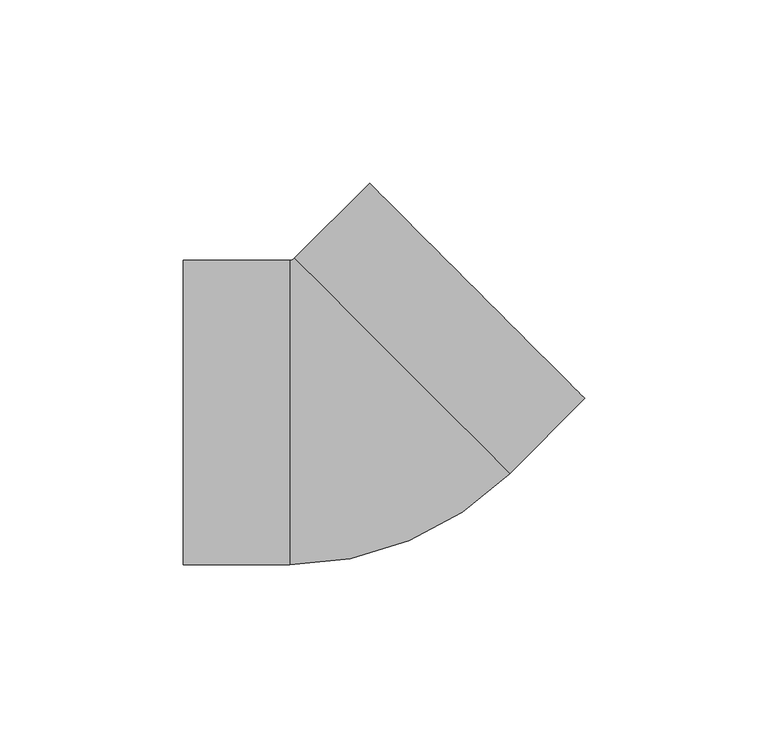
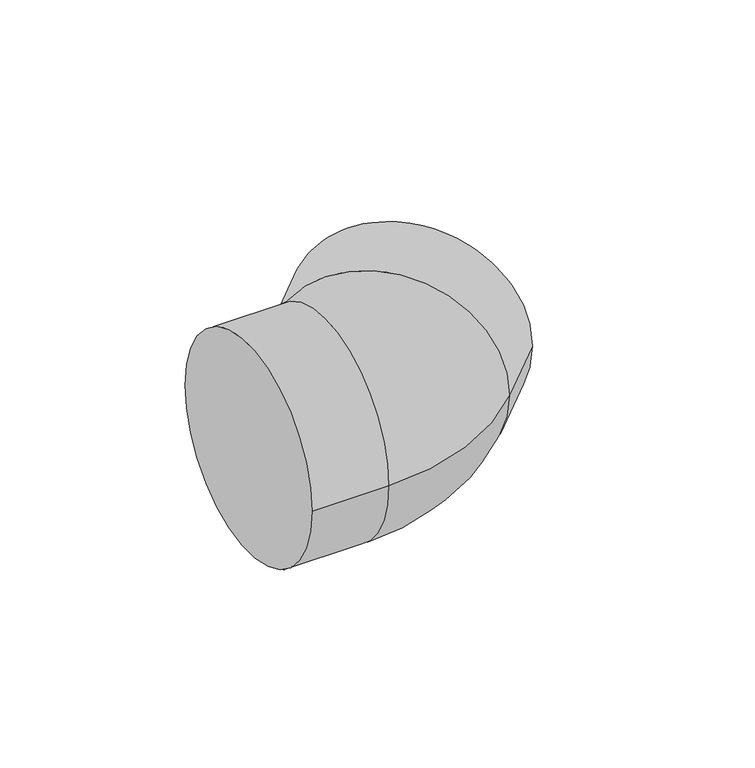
"""IFC4 building model written with IfcOpenShell, lengths in millimetres: pipe fitting geometry, NIRON RED termofusion codo : Estándar."""

from ifc_helpers import new_model, si_unit, point, frame, origin, place, context, project, spatial, circle_curve, ellipse_curve, trimmed, source, transform, mapped, element, save
from ifc_brep_helpers import plane_surface, cylinder_surface, revolved_surface, advanced_brep


def pipe_fitting_443ac8a1(model_context):
    return source(origin(), model_context, "Body", "AdvancedBrep", [
        advanced_brep(
        [(-46.9836128, -41.5, 0.0), (-46.9836128, 41.5, 0.0), (-17.9836128, -41.5, 0.0), (-17.9836128, 41.5, 0.0), (-16.6285968, 42.061266, 0.0), (42.061266, -16.6285968, 0.0), (12.7163346, 12.7163346, 41.5), (12.7163346, 12.7163346, -41.5), (62.5673627, 3.8774998, 0.0), (3.8774998, 62.5673627, 0.0)],
        [
            (0, 1, circle_curve(frame((-46.9836128, 0.0, 0.0), z_axis=(-1.0, 0.0, 0.0), x_axis=(0.0, 1.0, 0.0)), 41.5)),
            (1, 0, circle_curve(frame((-46.9836128, 0.0, 0.0), z_axis=(-1.0, 0.0, 0.0), x_axis=(0.0, 1.0, 0.0)), 41.5)),
            (0, 2),
            (2, 3, circle_curve(frame((-17.9836128, 0.0, 0.0), z_axis=(-1.0, 0.0, 0.0), x_axis=(0.0, 1.0, 0.0)), 41.5)),
            (3, 1),
            (3, 2, circle_curve(frame((-17.9836128, 0.0, 0.0), z_axis=(-1.0, 0.0, 0.0), x_axis=(0.0, 1.0, 0.0)), 41.5)),
            (4, 3, circle_curve(frame((-17.9836128, 43.416282, 0.0), z_axis=(0.0, 0.0, -1.0), x_axis=(0.0, -1.0, 0.0)), 1.916282)),
            (2, 5, circle_curve(frame((-17.9836128, 43.416282, 0.0), z_axis=(0.0, 0.0, 1.0), x_axis=(0.0, -1.0, 0.0)), 84.916282)),
            (5, 6, circle_curve(frame((12.7163346, 12.7163346, 0.0), z_axis=(-0.7071067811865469, -0.7071067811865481, 0.0), x_axis=(-0.7071067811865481, 0.7071067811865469, 0.0)), 41.5)),
            (6, 4, circle_curve(frame((12.7163346, 12.7163346, 0.0), z_axis=(-0.7071067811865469, -0.7071067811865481, 0.0), x_axis=(-0.7071067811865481, 0.7071067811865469, 0.0)), 41.5)),
            (4, 7, circle_curve(frame((12.7163346, 12.7163346, 0.0), z_axis=(-0.7071067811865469, -0.7071067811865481, 0.0), x_axis=(-0.7071067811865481, 0.7071067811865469, 0.0)), 41.5)),
            (7, 5, circle_curve(frame((12.7163346, 12.7163346, 0.0), z_axis=(-0.7071067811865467, -0.7071067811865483, 0.0), x_axis=(-0.7071067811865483, 0.7071067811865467, 0.0)), 41.5)),
            (8, 9, circle_curve(frame((33.2224312, 33.2224312, 0.0), z_axis=(0.707106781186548, 0.707106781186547, 0.0), x_axis=(-0.707106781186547, 0.707106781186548, 0.0)), 41.5)),
            (9, 8, circle_curve(frame((33.2224312, 33.2224312, 0.0), z_axis=(0.707106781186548, 0.707106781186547, 0.0), x_axis=(-0.707106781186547, 0.707106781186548, 0.0)), 41.5)),
            (9, 4),
            (5, 8),
        ],
        [
            plane_surface(frame((-46.9836128, 0.0, 0.0), z_axis=(-1.0, 0.0, 0.0), x_axis=(0.0, 0.0, 1.0))),
            cylinder_surface(frame((-46.9836128, 0.0, 0.0), z_axis=(-1.0, 0.0, 0.0), x_axis=(0.0, 1.0, 0.0)), 41.5),
            revolved_surface(trimmed(ellipse_curve(frame((-17.9836128, 0.0, 0.0), z_axis=(-1.0, 0.0, 0.0), x_axis=(0.0, 1.0, 0.0)), 41.5, 41.5), [point((-17.9836128, -41.5, 0.0))], [point((-17.9836128, 41.5, 0.0))], True, "CARTESIAN"), (-17.9836128, 43.416282, 0.0), (0.0, 0.0, 1.0)),
            revolved_surface(trimmed(ellipse_curve(frame((-17.9836128, 0.0, 0.0), z_axis=(-1.0, 0.0, 0.0), x_axis=(0.0, 1.0, 0.0)), 41.5, 41.5), [point((-17.9836128, 41.5, 0.0))], [point((-17.9836128, -41.5, 0.0))], True, "CARTESIAN"), (-17.9836128, 43.416282, 0.0), (0.0, 0.0, 1.0)),
            plane_surface(frame((33.2224312, 33.2224312, 0.0), z_axis=(0.707106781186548, 0.707106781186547, 0.0), x_axis=(0.0, 0.0, 1.0))),
            cylinder_surface(frame((12.7163346, 12.7163346, 0.0), z_axis=(-0.707106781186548, -0.707106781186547, 0.0), x_axis=(-0.707106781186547, 0.707106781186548, 0.0)), 41.5),
        ],
        [
            (0, [[1, 2]]),
            (1, [[-1, 3, 4, 5]]),
            (1, [[-2, -5, 6, -3]]),
            (2, [[7, -4, 8, 9, 10]]),
            (3, [[-7, 11, 12, -8, -6]]),
            (4, [[13, 14]]),
            (5, [[-14, 15, -10, -9, 16]]),
            (5, [[-13, -16, -12, -11, -15]]),
        ],
    ),
    ])


if __name__ == "__main__":
    model = new_model("IFC4")
    model_context = context("Model", 3, world=origin())
    ifc_project = project(units=[si_unit("LENGTHUNIT", "METRE", prefix="MILLI")], contexts=[model_context])
    site = spatial("IfcSite", under=ifc_project)
    building = spatial("IfcBuilding", under=site)
    placement = place(None, origin())
    pipe_fitting_shape = pipe_fitting_443ac8a1(model_context)
    element("IfcPipeFitting", 1, ObjectType="NIRON RED termofusion codo : Estándar", at=placement, inside=building, context=model_context, shape_type="MappedRepresentation", body=[
        mapped(pipe_fitting_shape, transform((0.0, 0.0, 0.0), x_axis=(1.0, 0.0, 0.0), y_axis=(0.0, 1.0, 0.0), z_axis=(0.0, 0.0, 1.0))),
    ])
    save(model, "model.ifc")
